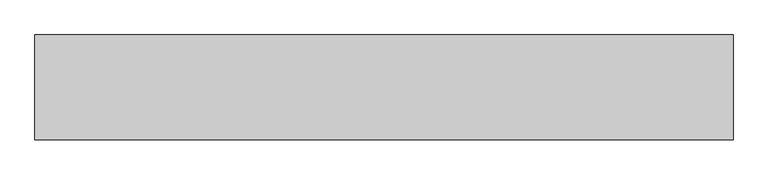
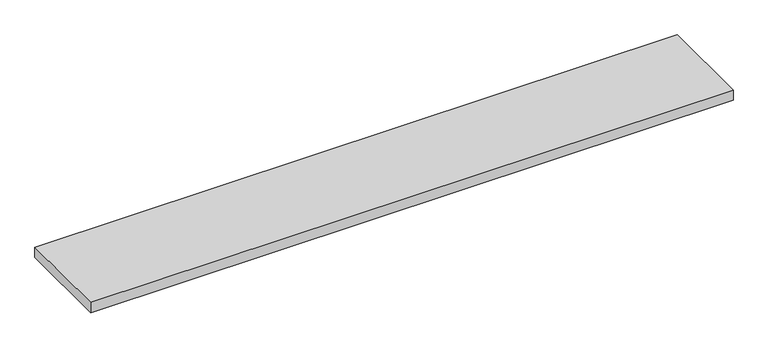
"""IFC4 building model written with IfcOpenShell, lengths in millimetres: light fixture geometry, GENILED_Светильник светодиодный_ЛПО Basic : ЛПО Basic 1200x178x20 40Вт Ra90 Опал."""

from ifc_helpers import new_model, si_unit, origin, place, context, project, spatial, faceted_brep, source, transform, mapped, element, save


def light_fixture_4871c609(model_context):
    return source(origin(), model_context, "Body", "Brep", [
        faceted_brep([(600.0, 90.0, 20.0), (-600.0, 90.0, 20.0), (-600.0, -90.0, 20.0), (600.0, -90.0, 20.0), (590.0, 80.0, 5.0), (590.0, -80.0, 5.0), (-590.0, -80.0, 5.0), (-590.0, 80.0, 5.0), (600.0, 90.0, 0.0), (600.0, -90.0, 0.0), (-600.0, -90.0, 0.0), (-600.0, 90.0, 0.0), (590.0, 80.0, 0.0), (-590.0, 80.0, 0.0), (-590.0, -80.0, 0.0), (590.0, -80.0, 0.0)], [[[0, 1, 2, 3]], [[4, 5, 6, 7]], [[8, 9, 10, 11], [12, 13, 14, 15]], [[1, 0, 8, 11]], [[2, 1, 11, 10]], [[3, 2, 10, 9]], [[0, 3, 9, 8]], [[12, 15, 5, 4]], [[15, 14, 6, 5]], [[14, 13, 7, 6]], [[13, 12, 4, 7]]]),
    ])


if __name__ == "__main__":
    model = new_model("IFC4")
    model_context = context("Model", 3, world=origin())
    ifc_project = project(units=[si_unit("LENGTHUNIT", "METRE", prefix="MILLI")], contexts=[model_context])
    site = spatial("IfcSite", under=ifc_project)
    building = spatial("IfcBuilding", under=site)
    placement = place(None, origin())
    light_fixture_shape = light_fixture_4871c609(model_context)
    element("IfcLightFixture", 1, ObjectType="GENILED_Светильник светодиодный_ЛПО Basic : ЛПО Basic 1200x178x20 40Вт Ra90 Опал", at=placement, inside=building, context=model_context, shape_type="MappedRepresentation", body=[
        mapped(light_fixture_shape, transform((0.0, 0.0, 0.0), x_axis=(1.0, 0.0, 0.0), y_axis=(0.0, 1.0, 0.0), z_axis=(0.0, 0.0, 1.0))),
    ])
    save(model, "model.ifc")
